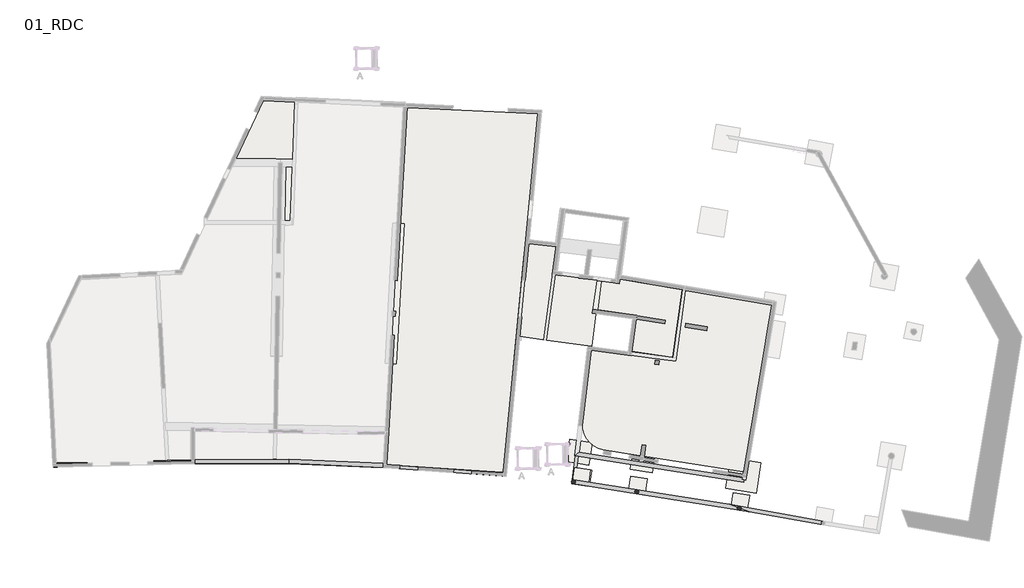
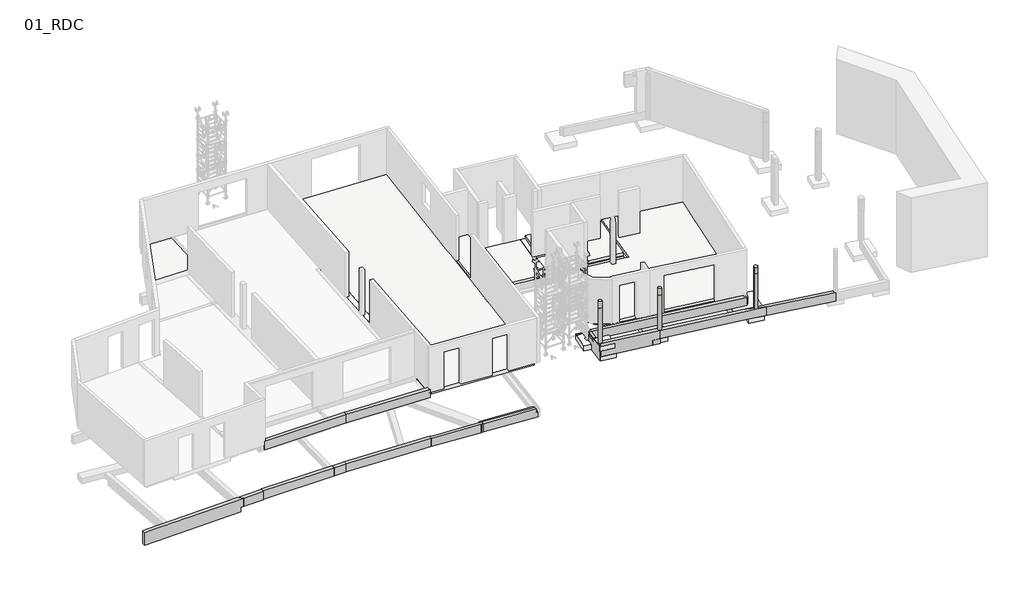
# One storey, part 2 of 5: 16 slabs, 14 beams, 3 columns.
"""IFC4 building model written with IfcOpenShell, lengths in millimetres."""

from ifc_helpers import new_model, si_unit, point, frame, frame_2d, origin, place, context, project, spatial, polyline, circle_curve, trimmed, segment, composite_curve, outline, extrude, faceted_brep, element, save
from ifc_brep_helpers import plane_surface, cylinder_surface, revolved_surface, advanced_brep

model = new_model("IFC4")

# Units and contexts
model_context = context("Model", 3, world=origin())
ifc_project = project(units=[si_unit("LENGTHUNIT", "METRE", prefix="MILLI")], contexts=[model_context])

# Site, building, storey
site = spatial("IfcSite", under=ifc_project)
building = spatial("IfcBuilding", under=site)
storey = spatial("IfcBuildingStorey", under=building, Name="01_RDC", Elevation=21740.0)

# Beams
placement = place(None, origin())
element("IfcBeam", 1, ObjectType="Poutre_Rect_2013_JBE : 15x80ht", at=placement, inside=storey, context=model_context, shape_type="AdvancedBrep", body=[
    advanced_brep(
    [(7927.6438367, -1727.5387484, 20940.0), (8076.540404, -1745.6994821, 20940.0), (8076.540404, -1745.6994821, 21490.0), (7927.6438367, -1727.5387484, 21490.0), (8242.115707, -388.1775546, 21739.7), (8242.115707, -388.1775546, 21740.0), (8172.8419805, -956.1402943, 21740.0), (8172.8419805, -956.1402943, 21739.7), (8051.7822994, -709.7499716, 20940.0), (8200.0685102, -732.9149074, 20940.0), (7927.6438367, -1727.5387484, 21740.0), (8093.8294962, -365.0126187, 21740.0), (8093.8294962, -365.0126187, 21739.7), (8020.843988, -963.4075843, 21739.7), (8020.843988, -963.4075843, 21579.7), (8093.8294962, -365.0126187, 21579.7), (8093.8294962, -365.0126187, 21240.0), (8051.7822994, -709.7499716, 21240.0), (8051.1204452, -937.1252319, 21740.0), (8242.115707, -388.1775546, 21579.7), (8242.115707, -388.1775546, 21240.0), (8044.2011689, -981.4177466, 21579.7), (8051.1204452, -937.1252319, 21579.7), (8172.8419805, -956.1402943, 21579.7), (8051.1204452, -937.1252319, 21739.7), (8044.2011689, -981.4177466, 21739.7), (8200.0685102, -732.9149074, 21240.0), (8051.1204452, -937.1252319, 21490.0), (8172.8419805, -956.1402943, 21490.0)],
    [
        (0, 1),
        (1, 2),
        (2, 3),
        (3, 0),
        (4, 5),
        (5, 6),
        (6, 7),
        (7, 4),
        (0, 8),
        (8, 9),
        (9, 1),
        (10, 11),
        (11, 12),
        (12, 13),
        (13, 14),
        (14, 15),
        (15, 16),
        (16, 17),
        (17, 8),
        (3, 10),
        (10, 18),
        (18, 6),
        (5, 11),
        (19, 20),
        (20, 16),
        (15, 19),
        (14, 21, circle_curve(frame((9366.7605871, 757.9458987, 21579.7), z_axis=(0.0, 0.0, 1.0), x_axis=(1.0, 0.0, 0.0)), 2185.0742104)),
        (21, 22),
        (22, 23),
        (23, 19),
        (12, 4),
        (7, 24),
        (24, 25),
        (25, 13, circle_curve(frame((9366.7605871, 757.9458987, 21739.7), z_axis=(0.0, 0.0, -1.0), x_axis=(1.0, 0.0, 0.0)), 2185.0742104)),
        (25, 21),
        (26, 17),
        (20, 26),
        (26, 9),
        (27, 3),
        (2, 28),
        (28, 27),
        (18, 24),
        (27, 22),
        (23, 28),
    ],
    [
        plane_surface(frame((8076.540404, -1745.6994821, 21740.0), z_axis=(-0.12107155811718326, -0.992643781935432, 0.0), x_axis=(0.0, 0.0, 1.0))),
        plane_surface(frame((8254.5348768, -286.3550298, 21740.0), z_axis=(0.992643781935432, -0.12107155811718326, 0.0), x_axis=(-0.12107155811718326, -0.992643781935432, 0.0))),
        plane_surface(frame((8254.5348768, -286.3550298, 20940.0), z_axis=(0.0, 0.0, -1.0), x_axis=(-0.12107155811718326, -0.992643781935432, 0.0))),
        plane_surface(frame((8105.6383095, -268.194296, 20940.0), z_axis=(-0.992643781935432, 0.12107155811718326, 0.0), x_axis=(-0.12107155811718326, -0.992643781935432, 0.0))),
        plane_surface(frame((8105.6383095, -268.194296, 21740.0), z_axis=(0.0, 0.0, 1.0), x_axis=(-0.12107155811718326, -0.992643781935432, 0.0))),
        plane_surface(frame((8164.6520171, -376.0763525, 21240.0), z_axis=(0.1543457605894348, 0.9880168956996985, 0.0), x_axis=(0.9880168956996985, -0.1543457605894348, 0.0))),
        plane_surface(frame((5278.9911655, 3851.1043884, 21579.7), z_axis=(0.0, 0.0, 1.0000000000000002), x_axis=(-0.9909471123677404, 0.13425282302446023, 0.0))),
        plane_surface(frame((5278.9911655, 3851.1043884, 21739.7), z_axis=(0.0, 0.0, -1.0000000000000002), x_axis=(0.9909471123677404, -0.13425282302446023, 0.0))),
        revolved_surface(polyline([(11551.8347975, 757.9458987, 21579.7), (11551.8347975, 757.9458987, 21739.7)]), (9366.7605871, 757.9458987, 21739.7), (0.0, 0.0, -1.0)),
        plane_surface(frame((7838.7164468, 436.8759778, 21240.0), z_axis=(0.0, 0.0, -1.0), x_axis=(-0.9880168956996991, 0.15434576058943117, 0.0))),
        plane_surface(frame((7668.9361102, -649.9426075, 21240.0), z_axis=(0.15434576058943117, 0.9880168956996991, 0.0), x_axis=(0.0, 0.0, -1.0))),
        plane_surface(frame((8051.1204452, -937.1252319, 21490.0), z_axis=(0.0, 0.0, 1.0), x_axis=(0.988016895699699, -0.15434576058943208, 0.0))),
        plane_surface(frame((8841.5339617, -1060.6018403, 21740.0), z_axis=(-0.15434576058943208, -0.988016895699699, 0.0), x_axis=(0.0, 0.0, -1.0))),
        plane_surface(frame((8051.1204452, -937.1252319, 21740.0), z_axis=(0.988016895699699, -0.15434576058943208, 0.0), x_axis=(0.0, 0.0, -1.0))),
    ],
    [
        (0, [[1, 2, 3, 4]]),
        (1, [[5, 6, 7, 8]]),
        (2, [[-1, 9, 10, 11]]),
        (3, [[12, 13, 14, 15, 16, 17, 18, 19, -9, -4, 20]]),
        (4, [[-12, 21, 22, -6, 23]]),
        (5, [[24, 25, -17, 26]]),
        (6, [[-16, 27, 28, 29, 30, -26]]),
        (7, [[-14, 31, -8, 32, 33, 34]]),
        (8, [[-15, -34, 35, -27]]),
        (5, [[-23, -5, -31, -13]]),
        (9, [[36, -18, -25, 37]]),
        (10, [[-36, 38, -10, -19]]),
        (11, [[39, -3, 40, 41]]),
        (12, [[42, -32, -7, -22]]),
        (13, [[-39, 43, -28, -35, -33, -42, -21, -20]]),
        (1, [[-24, -30, 44, -40, -2, -11, -38, -37]]),
        (12, [[-41, -44, -29, -43]]),
    ],
),
])
element("IfcBeam", 2, ObjectType="Poutre_Rect_2013_JBE : 18x50ht", at=placement, inside=storey, context=model_context, shape_type="SweptSolid", body=[
    extrude(outline(polyline([(20150.9156972, -3730.1219038), (16578.7470612, -3094.1778304), (15586.8619373, -2734.7648614), (20181.0654483, -3552.6591975), (20150.9156972, -3730.1219038)])), frame((0.0, 0.0, 21440.0), z_axis=(0.0, 0.0, 1.0), x_axis=(1.0, 0.0, 0.0)), (0.0, 0.0, 1.0), 500.0),
])
element("IfcBeam", 3, ObjectType="Poutre_Rect_2013_JBE : 20x50ht", at=placement, inside=storey, context=model_context, shape_type="Brep", body=[
    faceted_brep([(-5844.0715312, -744.9342702, 21940.0), (-5844.0715312, -744.9342702, 21440.0), (-5844.8812324, -544.9359093, 21440.0), (-5844.8812324, -544.9359093, 21940.0), (-10439.033874, -763.5371561, 21940.0), (-10439.8435753, -563.5387951, 21940.0), (-10439.8435753, -563.5387951, 21440.0), (-10439.033874, -763.5371561, 21440.0), (-8232.5848744, -754.6042605, 21440.0), (-5848.4507051, -744.9519995, 21440.0), (-8233.3945757, -554.6058995, 21440.0), (-7946.7003599, -553.4452067, 21440.0), (-6625.1436627, -553.4452067, 21440.0), (-6625.0448231, -548.0944323, 21440.0), (-6625.0448231, -548.0944323, 21470.0), (-7946.7003599, -553.4452067, 21470.0), (-6625.1436627, -553.4452067, 21470.0)], [[[0, 1, 2, 3]], [[4, 5, 6, 7]], [[1, 0, 4, 7, 8, 9]], [[2, 1, 9, 8, 7, 6, 10, 11, 12, 13]], [[3, 2, 13, 14, 15, 11, 10, 6, 5]], [[0, 3, 5, 4]], [[14, 16, 15]], [[16, 14, 13, 12]], [[15, 16, 12, 11]]]),
])
element("IfcBeam", 4, ObjectType="Poutre_Rect_2013_JBE : 20x50ht", at=placement, inside=storey, context=model_context, shape_type="Brep", body=[
    faceted_brep([(-1191.9423901, -946.7799787, 21940.0), (-1191.9423901, -946.7799787, 21440.0), (-1183.2870434, -746.967354, 21440.0), (-1183.2870434, -746.967354, 21740.0), (-1191.8938423, -945.65923, 21740.0), (-1191.8938423, -945.65923, 21940.0), (-5848.6797506, -745.0626119, 21940.0), (-5840.0244039, -545.2499873, 21940.0), (-5840.0244039, -545.2499873, 21440.0), (-5848.6797506, -745.0626119, 21440.0), (-1235.6438293, -744.6993986, 21940.0), (-1235.6438293, -744.6993986, 21740.0), (-1246.6490524, -941.7118581, 21940.0), (-1246.6490524, -941.7118581, 21740.0), (-1237.7241115, -781.9400352, 21740.0)], [[[0, 1, 2, 3, 4, 5]], [[6, 7, 8, 9]], [[1, 0, 6, 9]], [[2, 1, 9, 8]], [[8, 7, 10, 11, 3, 2]], [[7, 6, 0, 5, 12, 10]], [[4, 13, 12, 5]], [[13, 4, 3, 11, 14]], [[13, 14, 11, 10, 12]]]),
])
element("IfcBeam", 5, ObjectType="Poutre_Rect_2013_JBE : 20x50ht", at=placement, inside=storey, context=model_context, shape_type="Brep", body=[
    faceted_brep([(-10526.7371149, -762.9896263, 18990.0), (-10526.7371149, -762.9896263, 18490.0), (-10527.0729804, -747.9925495, 18490.0), (-10527.6418252, -722.5924659, 18490.0), (-10531.2150706, -563.0397628, 18490.0), (-10531.2150706, -563.0397628, 18990.0), (-10527.6418252, -722.5924659, 18990.0), (-10527.0729804, -747.9925495, 18990.0), (-11654.7702415, -788.2523708, 18990.0), (-11654.654987, -788.2497897, 18490.0), (-11760.1335155, -690.5869482, 18490.0), (-11765.4771293, -590.681546, 18490.0), (-11765.4771293, -590.681546, 18990.0), (-11760.1335155, -690.5869482, 18990.0)], [[[0, 1, 2, 3, 4, 5, 6, 7]], [[1, 0, 8, 9]], [[4, 3, 2, 1, 9, 10, 11]], [[5, 4, 11, 12]], [[0, 7, 6, 5, 12, 13, 8]], [[12, 11, 10, 13]], [[9, 8, 13, 10]]]),
])
element("IfcBeam", 6, ObjectType="Poutre_Rect_2013_JBE : 20x50ht", at=placement, inside=storey, context=model_context, shape_type="Brep", body=[
    faceted_brep([(-6522.6418252, -747.9925495, 18990.0), (-6522.6418252, -747.9925495, 18490.0), (-6522.6418252, -744.9432347, 18490.0), (-6522.6418252, -547.9925495, 18490.0), (-6522.6418252, -547.9925495, 18790.0), (-6522.6418252, -547.9925495, 18990.0), (-6522.6418252, -554.2668084, 18990.0), (-6522.6418252, -744.9432347, 18990.0), (-10527.6418252, -547.9925495, 18990.0), (-10527.6418252, -547.9925495, 18490.0), (-10527.6418252, -722.5924659, 18490.0), (-10527.6418252, -722.5924659, 18990.0), (-10527.0729804, -747.9925495, 18990.0), (-10527.0729804, -747.9925495, 18490.0), (-6622.0101401, -547.9925495, 18490.0), (-6526.8167558, -547.9925495, 18490.0)], [[[0, 1, 2, 3, 4, 5, 6, 7]], [[8, 9, 10, 11]], [[1, 0, 12, 13]], [[3, 2, 1, 13, 10, 9, 14, 15]], [[5, 4, 3, 15, 14, 9, 8]], [[0, 7, 6, 5, 8, 11, 12]], [[11, 10, 13, 12]]]),
])
element("IfcBeam", 7, ObjectType="Poutre_Rect_2013_JBE : 20x50ht", at=placement, inside=storey, context=model_context, shape_type="Brep", body=[
    faceted_brep([(-1147.26684, -948.5946696, 18990.0), (-1147.26684, -948.5946696, 18490.0), (-1138.6114932, -748.7820449, 18490.0), (-1138.6114932, -748.7820449, 18990.0), (-5850.8158679, -744.849547, 18990.0), (-5842.1605211, -545.0369223, 18990.0), (-5842.1605211, -545.0369223, 18490.0), (-5850.8158679, -744.849547, 18490.0), (-1245.1642954, -944.3540145, 18990.0), (-5848.4507051, -744.9519995, 18990.0), (-3142.3794185, -862.1717463, 18490.0), (-2143.3162952, -905.4484799, 18490.0), (-2807.1717646, -676.5044913, 18490.0), (-2492.2595701, -690.1456426, 18490.0), (-1240.5678842, -744.3655676, 18990.0)], [[[0, 1, 2, 3]], [[4, 5, 6, 7]], [[1, 0, 8, 9, 4, 7, 10, 11]], [[2, 1, 11, 10, 7, 6, 12, 13]], [[3, 2, 13, 12, 6, 5, 14]], [[0, 3, 14, 5, 4, 9, 8]]]),
])
element("IfcBeam", 8, ObjectType="Poutre_Rect_2013_JBE : 20x50ht", at=placement, inside=storey, context=model_context, shape_type="Brep", body=[
    faceted_brep([(-1150.1296314, -948.4295083, 18990.0), (-1135.7487017, -748.9472062, 18990.0), (-1135.7487017, -748.9472062, 18490.0), (-1150.1296314, -948.4295083, 18490.0), (1557.2545934, -1143.6082374, 18490.0), (1626.6253639, -1148.6092634, 18490.0), (1683.5157755, -1152.7105646, 18490.0), (1683.5157755, -1152.7105646, 18990.0), (1626.6253639, -1148.6092634, 18990.0), (1557.2545934, -1143.6082374, 18990.0), (1449.2103947, -935.300154, 18490.0), (1697.8967052, -953.2282625, 18490.0), (-1055.4812273, -754.7337892, 18990.0), (-1055.4812273, -754.7337892, 18790.0), (1449.2103947, -935.300154, 18790.0), (1697.8967052, -953.2282625, 18790.0), (1694.994376, -993.4873638, 18990.0), (-1057.7318571, -794.9238867, 18990.0), (1694.994376, -993.4873638, 18790.0), (-1057.7318571, -794.9238867, 18790.0)], [[[0, 1, 2, 3]], [[0, 3, 4, 5, 6, 7, 8, 9]], [[3, 2, 10, 11, 6, 5, 4]], [[2, 1, 12, 13, 14, 15, 11, 10]], [[1, 0, 9, 8, 7, 16, 17, 12]], [[7, 6, 11, 15, 18, 16]], [[13, 19, 18, 15, 14]], [[19, 17, 16, 18]], [[17, 19, 13, 12]]]),
])
element("IfcBeam", 9, ObjectType="Poutre_Rect_2013_JBE : 20x50ht", at=placement, inside=storey, context=model_context, shape_type="Brep", body=[
    faceted_brep([(-6526.8167558, -544.9432347, 18790.0), (-6526.8167558, -544.9432347, 18490.0), (-6526.8167558, -547.9925495, 18490.0), (-6526.8167558, -547.9925495, 18790.0), (-5841.8167558, -744.9432347, 18990.0), (-5841.8167558, -744.9432347, 18490.0), (-5841.8167558, -544.9432347, 18490.0), (-5841.8167558, -544.9432347, 18790.0), (-5841.8167558, -552.7778113, 18790.0), (-5841.8167558, -552.7778113, 18990.0), (-6421.9196946, -544.9432347, 18490.0), (-6421.9196946, -544.9432347, 18790.0), (-6522.6418252, -744.9432347, 18490.0), (-6522.6418252, -547.9925495, 18490.0), (-6522.6418252, -744.9432347, 18990.0), (-6522.6418252, -554.2668084, 18990.0), (-6522.6418252, -547.9925495, 18790.0), (-6522.6418252, -554.2668084, 18790.0)], [[[0, 1, 2, 3]], [[4, 5, 6, 7, 8, 9]], [[6, 10, 1, 0, 11, 7]], [[6, 5, 12, 13, 2, 1, 10]], [[5, 4, 14, 12]], [[4, 9, 15, 14]], [[8, 7, 11, 0, 3, 16, 17]], [[9, 8, 17, 15]], [[16, 13, 12, 14, 15, 17]], [[13, 16, 3, 2]]]),
])
element("IfcBeam", 10, ObjectType="Poutre_Rect_2013_JBE : 20x50ht", at=placement, inside=storey, context=model_context, shape_type="Brep", body=[
    faceted_brep([(16578.7470612, -3094.1778304, 21440.0), (16578.7470612, -3094.1778304, 21940.0), (11078.3286517, -2223.9606489, 21940.0), (11078.3286517, -2223.9606489, 21440.0), (15672.0919078, -2950.7365804, 21440.0), (16462.263955, -3075.7491232, 21440.0), (15586.8619373, -2734.7648614, 21440.0), (11109.5817874, -2026.4176371, 21440.0), (15586.8619373, -2734.7648614, 21940.0), (11109.5817874, -2026.4176371, 21940.0)], [[[0, 1, 2, 3, 4, 5]], [[6, 0, 5, 4, 3, 7]], [[8, 6, 7, 9]], [[1, 8, 9, 2]], [[2, 9, 7, 3]], [[1, 0, 6, 8]]]),
])
element("IfcBeam", 11, ObjectType="Poutre_Rect_2013_JBE : 20x50ht", at=placement, inside=storey, context=model_context, shape_type="Brep", body=[
    faceted_brep([(8293.8700266, -193.836809, 21740.0), (11223.162731, -651.4442774, 21740.0), (11420.7661102, -682.3134296, 21740.0), (16232.0812623, -1433.9261801, 21740.0), (16232.0812623, -1433.9261801, 21240.0), (11420.7661102, -682.3134296, 21240.0), (11223.162731, -651.4442774, 21240.0), (8293.8700266, -193.836809, 21240.0), (16297.4209442, -1646.5590853, 21240.0), (8242.115707, -388.1775546, 21240.0), (8093.8294962, -365.0126187, 21240.0), (8071.9270956, -361.5910753, 21240.0), (16215.566276, -1531.2267549, 21240.0), (16314.1562288, -1547.9605895, 21240.0), (16297.4209442, -1646.5590853, 21740.0), (8242.115707, -388.1775546, 21740.0), (8093.8294962, -365.0126187, 21740.0), (8071.9270956, -361.5910753, 21740.0), (8071.9270956, -361.5910753, 21739.7), (8093.8294962, -365.0126187, 21739.7), (8242.115707, -388.1775546, 21739.7), (8258.4352381, -390.7269547, 21739.7), (8258.4352381, -390.7269547, 21579.7), (8242.115707, -388.1775546, 21579.7), (8093.8294962, -365.0126187, 21579.7), (8071.9270956, -361.5910753, 21579.7), (16314.1562288, -1547.9605895, 21740.0), (16215.566276, -1531.2267549, 21740.0), (8281.201859, -203.4119693, 21579.7), (8281.201859, -203.4119693, 21739.7)], [[[0, 1, 2, 3, 4, 5, 6, 7]], [[8, 9, 10, 11, 7, 6, 5, 4, 12, 13]], [[11, 10, 9, 8, 14, 15, 16, 17, 18, 19, 20, 21, 22, 23, 24, 25]], [[17, 16, 15, 14, 26, 27, 3, 2, 1, 0]], [[14, 8, 13, 26]], [[12, 27, 26, 13]], [[27, 12, 4, 3]], [[22, 28, 25, 24, 23]], [[29, 21, 20, 19, 18]], [[28, 22, 21, 29]], [[0, 7, 11, 25, 28, 29, 18, 17]]]),
])
element("IfcBeam", 12, ObjectType="Poutre_Rect_2013_JBE : 20x77ht", at=placement, inside=storey, context=model_context, shape_type="Brep", body=[
    faceted_brep([(-17321.9480052, -921.1993262, 18990.0), (-17326.6424746, -721.2544289, 18990.0), (-17326.6424746, -721.2544289, 18220.0), (-17321.9480052, -921.1993262, 18220.0), (-11811.9888178, -791.8320082, 18220.0), (-11811.9888178, -791.8320082, 18490.0), (-11654.7727411, -788.1407609, 18490.0), (-11654.7727411, -788.1407609, 18790.0), (-11654.7727411, -788.1407609, 18990.0), (-15639.2449959, -881.6914518, 18990.0), (-17118.9691928, -916.433624, 18990.0), (-17319.0009467, -921.1301327, 18990.0), (-12335.7240826, -604.0735742, 18220.0), (-12332.0660644, -801.4697434, 18220.0), (-17129.5577792, -716.6271136, 18990.0), (-15643.9394653, -681.7465545, 18990.0), (-11865.4942898, -593.0331355, 18990.0), (-11865.4942898, -593.0331355, 18790.0), (-11865.4942898, -593.0331355, 18490.0), (-12335.7240826, -604.0735742, 18490.0), (-11760.1335155, -690.5869482, 18990.0), (-11760.1335155, -690.5869482, 18490.0), (-12332.0660644, -801.4697434, 18490.0)], [[[0, 1, 2, 3]], [[0, 3, 4, 5, 6, 7, 8, 9, 10, 11]], [[3, 2, 12, 13, 4]], [[2, 1, 14, 15, 16, 17, 18, 19, 12]], [[1, 0, 11, 10, 9, 8, 20, 16, 15, 14]], [[16, 20, 8, 7, 6, 21, 18, 17]], [[5, 22, 19, 18, 21, 6]], [[19, 22, 13, 12]], [[22, 5, 4, 13]]]),
])
element("IfcBeam", 13, ObjectType="Poutre_Rect_2013_JBE : 20x80ht", at=placement, inside=storey, context=model_context, shape_type="Brep", body=[
    faceted_brep([(11078.5206435, -2217.2118079, 21940.0), (7998.7715359, -1736.1003811, 21940.0), (7998.7715359, -1736.1003811, 21740.0), (8718.4461844, -1848.5263239, 21740.0), (8718.4461844, -1848.5263239, 21490.0), (7998.7715359, -1736.1003811, 21490.0), (7998.7715359, -1736.1003811, 21140.0), (8789.1850525, -1859.5769896, 21140.0), (11078.5206435, -2217.2118079, 21140.0), (8029.640688, -1538.497002, 21140.0), (11109.3897956, -2019.6084288, 21140.0), (8029.640688, -1538.497002, 21490.0), (8749.3153365, -1650.9229448, 21490.0), (8749.3153365, -1650.9229448, 21740.0), (8029.640688, -1538.497002, 21740.0), (8029.640688, -1538.497002, 21940.0), (11109.3897956, -2019.6084288, 21940.0)], [[[0, 1, 2, 3, 4, 5, 6, 7, 8]], [[8, 7, 6, 9, 10]], [[10, 9, 11, 12, 13, 14, 15, 16]], [[1, 0, 16, 15]], [[9, 6, 5, 11]], [[0, 8, 10, 16]], [[13, 3, 2, 14]], [[4, 12, 11, 5]], [[3, 13, 12, 4]], [[1, 15, 14, 2]]]),
])
element("IfcBeam", 14, ObjectType="Poutre_Rect_2013_JBE : 50x50ht", at=placement, inside=storey, context=model_context, shape_type="Brep", body=[
    faceted_brep([(4686.6768323, -868.1551696, 18490.0), (1872.4077845, -665.2709794, 18490.0), (1719.4508474, -654.2441217, 18490.0), (1719.4508474, -654.2441217, 18790.0), (1872.4077845, -665.2709794, 18790.0), (4686.6768323, -868.1551696, 18790.0), (4638.3484382, -1365.9687185, 18490.0), (1683.4985231, -1152.949877, 18490.0), (1683.5157755, -1152.7105646, 18490.0), (1697.8967052, -953.2282625, 18490.0), (4638.3484382, -1365.9687185, 18790.0), (4548.5537648, -1359.4953077, 18790.0), (4548.5537648, -1359.4953077, 18990.0), (1683.4985231, -1152.949877, 18990.0), (1694.994376, -993.4873638, 18990.0), (1683.5157755, -1152.7105646, 18990.0), (4563.9952454, -1200.4381247, 18990.0), (1694.994376, -993.4873638, 18790.0), (1697.8967052, -953.2282625, 18790.0), (4563.9952454, -1200.4381247, 18790.0)], [[[0, 1, 2, 3, 4, 5]], [[2, 1, 0, 6, 7, 8, 9]], [[7, 6, 10, 11, 12, 13]], [[14, 15, 13, 12, 16]], [[6, 0, 5, 10]], [[2, 9, 8, 7, 13, 15, 14, 17, 18, 3]], [[3, 18, 17, 19, 11, 10, 5, 4]], [[17, 14, 16, 19]], [[11, 19, 16, 12]]]),
])

# Columns
element("IfcColumn", 15, ObjectType="Pot_Circ_2013_JBE : diametre 20", at=placement, inside=storey, context=model_context, shape_type="SweptSolid", body=[
    extrude(outline(composite_curve([segment(trimmed(circle_curve(frame_2d((8014.206112, -1637.2986915)), 100.0), [point((7914.206112, -1637.2986915))], [point((8114.206112, -1637.2986915))], False, "CARTESIAN"), True, "CONTINUOUS"), segment(trimmed(circle_curve(frame_2d((8014.206112, -1637.2986915)), 100.0), [point((8114.206112, -1637.2986915))], [point((7914.206112, -1637.2986915))], False, "CARTESIAN"), True, "CONTINUOUS")], self_intersect=False)), frame((0.0, 0.0, 21940.0), z_axis=(0.0, 0.0, 1.0), x_axis=(1.0, 0.0, 0.0)), (0.0, 0.0, 1.0), 2100.0),
    extrude(outline(composite_curve([segment(trimmed(circle_curve(frame_2d((8014.206112, -1637.2986915)), 100.0), [point((7914.206112, -1637.2986915))], [point((8114.206112, -1637.2986915))], False, "CARTESIAN"), True, "CONTINUOUS"), segment(trimmed(circle_curve(frame_2d((8014.206112, -1637.2986915)), 100.0), [point((8114.206112, -1637.2986915))], [point((7914.206112, -1637.2986915))], False, "CARTESIAN"), True, "CONTINUOUS")], self_intersect=False)), frame((0.0, 0.0, 24040.0), z_axis=(0.0, 0.0, 1.0), x_axis=(1.0, 0.0, 0.0)), (0.0, 0.0, 1.0), 400.0),
])
element("IfcColumn", 16, ObjectType="Pot_Circ_2013_JBE : 200", at=placement, inside=storey, context=model_context, shape_type="SweptSolid", body=[
    extrude(outline(composite_curve([segment(trimmed(circle_curve(frame_2d((11093.9552195, -2125.189143)), 100.0), [point((10993.9552195, -2125.189143))], [point((11193.9552195, -2125.189143))], False, "CARTESIAN"), True, "CONTINUOUS"), segment(trimmed(circle_curve(frame_2d((11093.9552195, -2125.189143)), 100.0), [point((11193.9552195, -2125.189143))], [point((10993.9552195, -2125.189143))], False, "CARTESIAN"), True, "CONTINUOUS")], self_intersect=False)), frame((0.0, 0.0, 24040.0), z_axis=(0.0, 0.0, 1.0), x_axis=(1.0, 0.0, 0.0)), (0.0, 0.0, 1.0), 400.0),
    extrude(outline(composite_curve([segment(trimmed(circle_curve(frame_2d((11093.9552195, -2125.189143)), 100.0), [point((10993.9552195, -2125.189143))], [point((11193.9552195, -2125.189143))], False, "CARTESIAN"), True, "CONTINUOUS"), segment(trimmed(circle_curve(frame_2d((11093.9552195, -2125.189143)), 100.0), [point((11193.9552195, -2125.189143))], [point((10993.9552195, -2125.189143))], False, "CARTESIAN"), True, "CONTINUOUS")], self_intersect=False)), frame((0.0, 0.0, 21940.0), z_axis=(0.0, 0.0, 1.0), x_axis=(1.0, 0.0, 0.0)), (0.0, 0.0, 1.0), 2100.0),
])
element("IfcColumn", 17, ObjectType="Pot_Circ_2013_JBE : 200", at=placement, inside=storey, context=model_context, shape_type="SweptSolid", body=[
    extrude(outline(composite_curve([segment(trimmed(circle_curve(frame_2d((16082.8044992, -2914.4713459)), 100.0), [point((15982.8044992, -2914.4713459))], [point((16182.8044992, -2914.4713459))], False, "CARTESIAN"), True, "CONTINUOUS"), segment(trimmed(circle_curve(frame_2d((16082.8044992, -2914.4713459)), 100.0), [point((16182.8044992, -2914.4713459))], [point((15982.8044992, -2914.4713459))], False, "CARTESIAN"), True, "CONTINUOUS")], self_intersect=False)), frame((0.0, 0.0, 21940.0), z_axis=(0.0, 0.0, 1.0), x_axis=(1.0, 0.0, 0.0)), (0.0, 0.0, 1.0), 2100.0),
    extrude(outline(composite_curve([segment(trimmed(circle_curve(frame_2d((16082.8044992, -2914.4713459)), 100.0), [point((15982.8044992, -2914.4713459))], [point((16182.8044992, -2914.4713459))], False, "CARTESIAN"), True, "CONTINUOUS"), segment(trimmed(circle_curve(frame_2d((16082.8044992, -2914.4713459)), 100.0), [point((16182.8044992, -2914.4713459))], [point((15982.8044992, -2914.4713459))], False, "CARTESIAN"), True, "CONTINUOUS")], self_intersect=False)), frame((0.0, 0.0, 24040.0), z_axis=(0.0, 0.0, 1.0), x_axis=(1.0, 0.0, 0.0)), (0.0, 0.0, 1.0), 400.0),
])

# Slabs
element("IfcSlab", 18, ObjectType="Dalle Béton - 23 cm", at=placement, inside=storey, context=model_context, shape_type="SweptSolid", body=[
    extrude(outline(polyline([(-5699.7188548, 13676.2261233), (-5796.0111481, 11087.6283744), (-6012.5454719, 11087.6283744), (-5961.8423813, 13681.0662906), (-5699.7188548, 13676.2261233)])), frame((0.0, 0.0, 21510.0), z_axis=(0.0, 0.0, 1.0), x_axis=(1.0, 0.0, 0.0)), (0.0, 0.0, 1.0), 230.0),
])
element("IfcSlab", 19, ObjectType="Dalle Béton - 23 cm", at=placement, inside=storey, context=model_context, shape_type="Brep", body=[
    faceted_brep([(-5581.7926663, 16846.4015922, 21510.0), (-5684.315524, 14090.3093904, 21510.0), (-5684.8413105, 14076.1748245, 21510.0), (-6452.7049089, 14090.3093904, 21510.0), (-8381.5742515, 14125.8153462, 21510.0), (-7062.9671318, 16918.1743446, 21510.0), (-5581.7926663, 16846.4015922, 21740.0), (-7062.9671318, 16918.1743446, 21740.0), (-8381.5742515, 14125.8153462, 21740.0), (-6452.7049089, 14090.3093904, 21740.0), (-5684.8413105, 14076.1748245, 21740.0)], [[[0, 1, 2, 3, 4, 5]], [[6, 7, 8, 9, 10]], [[2, 1, 0, 6, 10]], [[4, 3, 2, 10, 9, 8]], [[5, 4, 8, 7]], [[0, 5, 7, 6]]]),
])
element("IfcSlab", 20, ObjectType="Dalle Béton - 23 cm", at=placement, inside=storey, context=model_context, shape_type="Brep", body=[
    faceted_brep([(4567.8851225, -1160.3698882, 21510.0), (-1055.6525857, -795.0658002, 21510.0), (-781.7804356, 4096.1254399, 21510.0), (-582.093611, 4084.9707708, 21510.0), (-198.9271583, 10944.2771111, 21510.0), (-398.6171318, 10955.431956, 21510.0), (-84.4505247, 16580.0188091, 21510.0), (6260.2982009, 16272.5735419, 21510.0), (5643.7523434, 9921.7545877, 21510.0), (5643.5584676, 9919.7575422, 21510.0), (5554.8554062, 9006.0589482, 21510.0), (4567.8851225, -1160.3698882, 21740.0), (5554.8554062, 9006.0589482, 21740.0), (5643.5584676, 9919.7575422, 21740.0), (6260.2982009, 16272.5735419, 21740.0), (-84.4505247, 16580.0188091, 21740.0), (-398.6171318, 10955.431956, 21740.0), (-198.9271583, 10944.2771111, 21740.0), (-582.093611, 4084.9707708, 21740.0), (-781.7804356, 4096.1254399, 21740.0), (-1055.6525857, -795.0658002, 21740.0), (-582.093611, 4084.9707708, 21540.0), (-198.9271583, 10944.2771111, 21540.0), (-398.6171318, 10955.431956, 21540.0)], [[[0, 1, 2, 3, 4, 5, 6, 7, 8, 9, 10]], [[11, 12, 13, 14, 15, 16, 17, 18, 19, 20]], [[1, 0, 11, 20]], [[2, 1, 20, 19]], [[3, 2, 19, 18, 21]], [[4, 3, 21, 18, 17, 22]], [[5, 4, 22, 17, 16, 23]], [[6, 5, 23, 16, 15]], [[7, 6, 15, 14]], [[0, 10, 9, 8, 7, 14, 13, 12, 11]]]),
])
element("IfcSlab", 21, ObjectType="Dalle Béton - 16cm", at=placement, inside=storey, context=model_context, shape_type="Brep", body=[
    faceted_brep([(6534.8111995, 5284.96327, 21579.3), (5393.2856525, 5440.4656432, 21579.3), (5737.5712097, 8988.1038187, 21579.3), (5826.4364882, 9903.8025692, 21579.3), (5830.1403768, 9941.9687257, 21579.3), (7155.6317386, 9811.5437408, 21579.3), (6534.8111995, 5284.96327, 21739.3), (7155.6317386, 9811.5437408, 21739.3), (5830.1403768, 9941.9687257, 21739.3), (5826.4364882, 9903.8025692, 21739.3), (5737.5712097, 8988.1038187, 21739.3), (5393.2856525, 5440.4656432, 21739.3)], [[[0, 1, 2, 3, 4, 5]], [[6, 7, 8, 9, 10, 11]], [[1, 0, 6, 11]], [[4, 3, 2, 1, 11, 10, 9, 8]], [[5, 4, 8, 7]], [[0, 5, 7, 6]]]),
])
element("IfcSlab", 22, ObjectType="Dalle Béton - 16cm", at=placement, inside=storey, context=model_context, shape_type="Brep", body=[
    faceted_brep([(9144.1263186, 8165.0324587, 21580.0), (8927.5377269, 6575.0798072, 21580.0), (8927.8469567, 6575.0354332, 21580.0), (9105.7161917, 6549.5114826, 21580.0), (8911.9398835, 4960.7746202, 21580.0), (6714.0902186, 5261.8378363, 21580.0), (7149.0008783, 8436.8187907, 21580.0), (9144.1263186, 8165.0324587, 21740.0), (7149.0008783, 8436.8187907, 21740.0), (6714.0902186, 5261.8378363, 21740.0), (8911.9398835, 4960.7746202, 21740.0), (9105.7161917, 6549.5114826, 21740.0), (8927.5377269, 6575.0798072, 21740.0), (8939.512278, 6662.983649, 21740.0)], [[[0, 1, 2, 3, 4, 5, 6]], [[7, 8, 9, 10, 11, 12, 13]], [[6, 5, 9, 8]], [[0, 6, 8, 7]], [[1, 0, 7, 13, 12]], [[3, 2, 1, 12, 11]], [[4, 3, 11, 10]], [[5, 4, 10, 9]]]),
])
element("IfcSlab", 23, ObjectType="Dalle Béton - 16cm", at=placement, inside=storey, context=model_context, shape_type="AdvancedBrep", body=[
    advanced_brep(
    [(8451.54307, 1210.5936454, 21580.0), (8887.2410246, 4782.8022811, 21580.0), (12005.7235844, 4357.9796423, 21580.0), (12203.9311908, 4330.9783438, 21580.0), (13007.5041125, 4221.509728, 21580.0), (13274.9436703, 6184.6951152, 21580.0), (13477.9819249, 7675.1901404, 21580.0), (17647.9103237, 6967.4163803, 21580.0), (17381.905687, 5400.209264, 21580.0), (17348.4380179, 5203.0293585, 21580.0), (16270.898819, -1145.4581022, 21580.0), (11465.7272599, -394.5026379, 21580.0), (11268.1257774, -363.6213444, 21580.0), (9469.9993134, -82.6089233, 21580.0), (8451.54307, 1210.5936454, 21740.0), (9469.9993134, -82.6089233, 21740.0), (11268.1257774, -363.6213444, 21740.0), (11465.7272599, -394.5026379, 21740.0), (16270.898819, -1145.4581022, 21740.0), (17348.4380179, 5203.0293585, 21740.0), (17381.905687, 5400.209264, 21740.0), (17647.9103237, 6967.4163803, 21740.0), (13477.9819249, 7675.1901404, 21740.0), (13274.9418134, 6184.6953682, 21740.0), (13007.5041125, 4221.509728, 21740.0), (12203.9311908, 4330.9783438, 21740.0), (12005.7235844, 4357.9796423, 21740.0), (8887.2410246, 4782.8022811, 21740.0)],
    [
        (0, 1),
        (1, 2),
        (2, 3),
        (3, 4),
        (4, 5),
        (5, 6),
        (6, 7),
        (7, 8),
        (8, 9),
        (9, 10),
        (10, 11),
        (11, 12),
        (12, 13),
        (13, 0, circle_curve(frame((9716.1639119, 1158.8987204, 21580.0), z_axis=(0.0, 0.0, -1.0), x_axis=(1.0, 0.0, 0.0)), 1265.6769884)),
        (14, 15, circle_curve(frame((9716.1639119, 1158.8987204, 21740.0), z_axis=(0.0, 0.0, 1.0), x_axis=(1.0, 0.0, 0.0)), 1265.6769884)),
        (15, 16),
        (16, 17),
        (17, 18),
        (18, 19),
        (19, 20),
        (20, 21),
        (21, 22),
        (22, 23),
        (23, 24),
        (24, 25),
        (25, 26),
        (26, 27),
        (27, 14),
        (0, 14),
        (27, 1),
        (24, 4),
        (23, 5),
        (22, 6),
        (21, 7),
        (18, 10),
        (15, 13),
    ],
    [
        plane_surface(frame((8884.979248, 4764.2583847, 21580.0), z_axis=(0.0, 0.0, -1.0), x_axis=(0.1210715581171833, 0.992643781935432, 0.0))),
        plane_surface(frame((8884.979248, 4764.2583847, 21740.0), z_axis=(0.0, 0.0, 1.0), x_axis=(-0.1210715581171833, -0.992643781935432, 0.0))),
        plane_surface(frame((8451.54307, 1210.5936454, 21580.0), z_axis=(-0.992643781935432, 0.1210715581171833, 0.0), x_axis=(0.0, 0.0, 1.0))),
        plane_surface(frame((8887.2410246, 4782.8022811, 21580.0), z_axis=(0.13498063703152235, 0.9908482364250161, 0.0), x_axis=(0.0, 0.0, 1.0))),
        plane_surface(frame((13007.5041125, 4221.509728, 21580.0), z_axis=(-0.9908482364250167, 0.13498063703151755, 0.0), x_axis=(0.0, 0.0, 1.0))),
        plane_surface(frame((13274.9418134, 6184.6953682, 21580.0), z_axis=(-0.9908487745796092, 0.1349766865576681, 0.0), x_axis=(0.0, 0.0, 1.0))),
        plane_surface(frame((13477.9819249, 7675.1901404, 21580.0), z_axis=(0.16733948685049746, 0.9858993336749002, 0.0), x_axis=(0.0, 0.0, 1.0))),
        plane_surface(frame((17647.9103237, 6967.4163803, 21580.0), z_axis=(0.9858995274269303, -0.16733834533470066, 0.0), x_axis=(0.0, 0.0, 1.0))),
        plane_surface(frame((16270.898819, -1145.4581022, 21580.0), z_axis=(-0.1544064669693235, -0.9880074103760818, 0.0), x_axis=(0.0, 0.0, 1.0))),
        cylinder_surface(frame((9716.1639119, 1158.8987204, 21740.0), z_axis=(0.0, 0.0, -1.0), x_axis=(1.0, 0.0, 0.0)), 1265.6769884),
    ],
    [
        (0, [[1, 2, 3, 4, 5, 6, 7, 8, 9, 10, 11, 12, 13, 14]]),
        (1, [[15, 16, 17, 18, 19, 20, 21, 22, 23, 24, 25, 26, 27, 28]]),
        (2, [[-1, 29, -28, 30]]),
        (3, [[-4, -3, -2, -30, -27, -26, -25, 31]]),
        (4, [[-5, -31, -24, 32]]),
        (5, [[-6, -32, -23, 33]]),
        (6, [[-7, -33, -22, 34]]),
        (7, [[-10, -9, -8, -34, -21, -20, -19, 35]]),
        (8, [[-13, -12, -11, -35, -18, -17, -16, 36]]),
        (9, [[-14, -36, -15, -29]]),
    ],
),
])
element("IfcSlab", 24, ObjectType="Dalle Béton - 17 cm", at=placement, inside=storey, context=model_context, shape_type="SweptSolid", body=[
    extrude(outline(polyline([(10275.8977668, 8000.6708554), (10275.8977668, 8218.6889442), (13280.6950431, 7708.6761989), (12835.2719775, 4438.8752428), (10853.5755046, 4708.8365169), (11095.1454918, 6472.3681841), (9212.5220737, 6728.7449876), (9403.1269428, 8120.2231245), (10275.8977668, 8000.6708554)])), frame((0.0, 0.0, 21770.0), z_axis=(0.0, 0.0, 1.0), x_axis=(1.0, 0.0, 0.0)), (0.0, 0.0, 1.0), 170.0),
])
element("IfcSlab", 25, ObjectType="Dalle Béton - 20 cm", at=placement, inside=storey, context=model_context, shape_type="Brep", body=[
    faceted_brep([(6259.6969455, 16272.6025395, 21540.0), (4566.8850641, -1160.2977927, 21540.0), (-1138.669098, -750.1118763, 21540.0), (-852.616712, 4400.2038548, 21540.0), (-504.8929369, 10660.9005552, 21540.0), (-175.8914019, 16584.5070858, 21540.0), (6259.6969455, 16272.6025395, 21740.0), (-175.8914019, 16584.5070858, 21740.0), (-504.8929369, 10660.9005552, 21740.0), (-852.616712, 4400.2038548, 21740.0), (-1138.669098, -750.1118763, 21740.0), (4566.8850641, -1160.2977927, 21740.0)], [[[0, 1, 2, 3, 4, 5]], [[6, 7, 8, 9, 10, 11]], [[1, 0, 6, 11]], [[2, 1, 11, 10]], [[5, 4, 3, 2, 10, 9, 8, 7]], [[0, 5, 7, 6]]]),
])
element("IfcSlab", 26, ObjectType="Dalle Béton - 23 cm", at=placement, inside=storey, context=model_context, shape_type="Brep", body=[
    faceted_brep([(11092.2153824, 6460.6579143, 21510.0), (8953.1093388, 6751.962678, 21510.0), (9144.8326571, 8159.8233109, 21510.0), (10234.7725308, 8011.3946351, 21510.0), (10271.5872173, 8228.2924886, 21510.0), (11037.8423089, 8098.2338434, 21510.0), (11692.2870369, 7987.1530877, 21510.0), (13301.6924629, 7713.9841501, 21510.0), (12853.5567479, 4424.3680052, 21510.0), (10852.0307981, 4696.9370278, 21510.0), (11092.2153824, 6460.6579143, 21740.0), (10852.0307981, 4696.9370278, 21740.0), (12853.5567479, 4424.3680052, 21740.0), (13301.6924629, 7713.9841501, 21740.0), (11692.2870369, 7987.1530877, 21740.0), (11037.8423089, 8098.2338434, 21740.0), (10271.5872173, 8228.2924886, 21740.0), (10234.7725308, 8011.3946351, 21740.0), (9144.8326571, 8159.8233109, 21740.0), (8953.1093388, 6751.962678, 21740.0)], [[[0, 1, 2, 3, 4, 5, 6, 7, 8, 9]], [[10, 11, 12, 13, 14, 15, 16, 17, 18, 19]], [[1, 0, 10, 19]], [[2, 1, 19, 18]], [[3, 2, 18, 17]], [[4, 3, 17, 16]], [[7, 6, 5, 4, 16, 15, 14, 13]], [[8, 7, 13, 12]], [[9, 8, 12, 11]], [[0, 9, 11, 10]]]),
])
element("IfcSlab", 27, ObjectType="Base rectangulaire : 110x110x30 cm", at=placement, inside=storey, context=model_context, shape_type="SweptSolid", body=[
    extrude(outline(polyline([(12025.891305, -100.7234944), (11856.1109684, -1187.5420797), (10769.2923831, -1017.761743), (10939.0727197, 69.0568422), (12025.891305, -100.7234944)])), frame((0.0, 0.0, 20940.0), z_axis=(0.0, 0.0, 1.0), x_axis=(1.0, 0.0, 0.0)), (0.0, 0.0, 1.0), 300.0),
    extrude(outline(polyline([(12025.891305, -100.7234944), (11856.1109684, -1187.5420797), (10769.2923831, -1017.761743), (10939.0727197, 69.0568422), (12025.891305, -100.7234944)])), frame((0.0, 0.0, 20940.0), z_axis=(0.0, 0.0, 1.0), x_axis=(1.0, 0.0, 0.0)), (0.0, 0.0, 1.0), 300.0),
])
element("IfcSlab", 28, ObjectType="Base rectangulaire : 110x110x30 cm", at=placement, inside=storey, context=model_context, shape_type="Brep", body=[
    faceted_brep([(8925.5350321, 267.0956412, 21240.0), (7838.7164468, 436.8759778, 21240.0), (7668.9361102, -649.9426075, 21240.0), (8051.7822994, -709.7499716, 21240.0), (8200.0685102, -732.9149074, 21240.0), (8755.7546954, -819.7229441, 21240.0), (8925.5350321, 267.0956412, 20940.0), (8755.7546954, -819.7229441, 20940.0), (8200.0685102, -732.9149074, 20940.0), (8051.7822994, -709.7499716, 20940.0), (7668.9361102, -649.9426075, 20940.0), (7838.7164468, 436.8759778, 20940.0)], [[[0, 1, 2, 3, 4, 5]], [[6, 7, 8, 9, 10, 11]], [[1, 0, 6, 11]], [[2, 1, 11, 10]], [[5, 4, 3, 2, 10, 9, 8, 7]], [[0, 5, 7, 6]]]),
    faceted_brep([(8925.5350321, 267.0956412, 21240.0), (7838.7164468, 436.8759778, 21240.0), (7668.9361102, -649.9426075, 21240.0), (8051.7822994, -709.7499716, 21240.0), (8200.0685102, -732.9149074, 21240.0), (8755.7546954, -819.7229441, 21240.0), (8925.5350321, 267.0956412, 20940.0), (8755.7546954, -819.7229441, 20940.0), (8200.0685102, -732.9149074, 20940.0), (8051.7822994, -709.7499716, 20940.0), (7668.9361102, -649.9426075, 20940.0), (7838.7164468, 436.8759778, 20940.0)], [[[0, 1, 2, 3, 4, 5]], [[6, 7, 8, 9, 10, 11]], [[1, 0, 6, 11]], [[2, 1, 11, 10]], [[5, 4, 3, 2, 10, 9, 8, 7]], [[0, 5, 7, 6]]]),
])
element("IfcSlab", 29, ObjectType="Base rectangulaire : 150x150x45 cm", at=placement, inside=storey, context=model_context, shape_type="SweptSolid", body=[
    extrude(outline(polyline([(17142.2562914, -706.1766988), (16910.7376505, -2188.2020423), (15428.712307, -1956.6834014), (15660.2309478, -474.6580579), (17142.2562914, -706.1766988)])), frame((0.0, 0.0, 20790.0), z_axis=(0.0, 0.0, 1.0), x_axis=(1.0, 0.0, 0.0)), (0.0, 0.0, 1.0), 450.0),
    extrude(outline(polyline([(17142.2562914, -706.1766988), (16910.7376505, -2188.2020423), (15428.712307, -1956.6834014), (15660.2309478, -474.6580579), (17142.2562914, -706.1766988)])), frame((0.0, 0.0, 20790.0), z_axis=(0.0, 0.0, 1.0), x_axis=(1.0, 0.0, 0.0)), (0.0, 0.0, 1.0), 450.0),
])
element("IfcSlab", 30, ObjectType="Base rectangulaire : 80x80x25 cm", at=placement, inside=storey, context=model_context, shape_type="Brep", body=[
    faceted_brep([(8912.6616609, -1069.163473, 21140.0), (8122.2481444, -945.6868645, 21140.0), (8029.640688, -1538.497002, 21140.0), (7998.7715359, -1736.1003811, 21140.0), (8789.1850525, -1859.5769896, 21140.0), (8912.6616609, -1069.163473, 20890.0), (8789.1850525, -1859.5769896, 20890.0), (7998.7715359, -1736.1003811, 20890.0), (8122.2481444, -945.6868645, 20890.0)], [[[0, 1, 2, 3, 4]], [[5, 6, 7, 8]], [[1, 0, 5, 8]], [[3, 2, 1, 8, 7]], [[4, 3, 7, 6]], [[0, 4, 6, 5]]]),
    faceted_brep([(8912.6616609, -1069.163473, 21140.0), (8122.2481444, -945.6868645, 21140.0), (8029.640688, -1538.497002, 21140.0), (7998.7715359, -1736.1003811, 21140.0), (8789.1850525, -1859.5769896, 21140.0), (8912.6616609, -1069.163473, 20890.0), (8789.1850525, -1859.5769896, 20890.0), (7998.7715359, -1736.1003811, 20890.0), (8122.2481444, -945.6868645, 20890.0)], [[[0, 1, 2, 3, 4]], [[5, 6, 7, 8]], [[1, 0, 5, 8]], [[3, 2, 1, 8, 7]], [[4, 3, 7, 6]], [[0, 4, 6, 5]]]),
])
element("IfcSlab", 31, ObjectType="Base rectangulaire : 80x80x25 cm", at=placement, inside=storey, context=model_context, shape_type="SweptSolid", body=[
    extrude(outline(polyline([(11598.8849017, -1489.5875379), (11473.8723589, -2279.7595851), (10683.7003118, -2154.7470423), (10808.7128546, -1364.5749952), (11598.8849017, -1489.5875379)])), frame((0.0, 0.0, 21190.0), z_axis=(0.0, 0.0, 1.0), x_axis=(1.0, 0.0, 0.0)), (0.0, 0.0, 1.0), 250.0),
    extrude(outline(polyline([(11598.8849017, -1489.5875379), (11473.8723589, -2279.7595851), (10683.7003118, -2154.7470423), (10808.7128546, -1364.5749952), (11598.8849017, -1489.5875379)])), frame((0.0, 0.0, 21190.0), z_axis=(0.0, 0.0, 1.0), x_axis=(1.0, 0.0, 0.0)), (0.0, 0.0, 1.0), 250.0),
])
element("IfcSlab", 32, ObjectType="Base rectangulaire : 80x80x25 cm", at=placement, inside=storey, context=model_context, shape_type="SweptSolid", body=[
    extrude(outline(polyline([(16587.2764978, -2285.577076), (16462.263955, -3075.7491232), (15672.0919078, -2950.7365804), (15797.1044506, -2160.5645332), (16587.2764978, -2285.577076)])), frame((0.0, 0.0, 21190.0), z_axis=(0.0, 0.0, 1.0), x_axis=(1.0, 0.0, 0.0)), (0.0, 0.0, 1.0), 250.0),
    extrude(outline(polyline([(16587.2764978, -2285.577076), (16462.263955, -3075.7491232), (15672.0919078, -2950.7365804), (15797.1044506, -2160.5645332), (16587.2764978, -2285.577076)])), frame((0.0, 0.0, 21190.0), z_axis=(0.0, 0.0, 1.0), x_axis=(1.0, 0.0, 0.0)), (0.0, 0.0, 1.0), 250.0),
])
element("IfcSlab", 33, ObjectType="Base rectangulaire : 80x80x25 cm", at=placement, inside=storey, context=model_context, shape_type="Brep", body=[
    faceted_brep([(8841.5339617, -1060.6018403, 21740.0), (8172.8419805, -956.1402943, 21740.0), (8051.1204452, -937.1252319, 21740.0), (7927.6438367, -1727.5387484, 21740.0), (8718.0573533, -1851.0153569, 21740.0), (8718.4461844, -1848.5263239, 21740.0), (8749.3153365, -1650.9229448, 21740.0), (8841.5339617, -1060.6018403, 21490.0), (8749.3153365, -1650.9229448, 21490.0), (8718.4461844, -1848.5263239, 21490.0), (8718.0573533, -1851.0153569, 21490.0), (7927.6438367, -1727.5387484, 21490.0), (8051.1204452, -937.1252319, 21490.0), (8172.8419805, -956.1402943, 21490.0), (8051.1204452, -937.1252319, 21579.7), (8051.1204452, -937.1252319, 21739.7)], [[[0, 1, 2, 3, 4, 5, 6]], [[7, 8, 9, 10, 11, 12, 13]], [[2, 1, 0, 7, 13, 12, 14, 15]], [[3, 2, 15, 14, 12, 11]], [[4, 3, 11, 10]], [[0, 6, 5, 4, 10, 9, 8, 7]]]),
    faceted_brep([(8841.5339617, -1060.6018403, 21740.0), (8172.8419805, -956.1402943, 21740.0), (8051.1204452, -937.1252319, 21740.0), (7927.6438367, -1727.5387484, 21740.0), (8718.0573533, -1851.0153569, 21740.0), (8718.4461844, -1848.5263239, 21740.0), (8749.3153365, -1650.9229448, 21740.0), (8841.5339617, -1060.6018403, 21490.0), (8749.3153365, -1650.9229448, 21490.0), (8718.4461844, -1848.5263239, 21490.0), (8718.0573533, -1851.0153569, 21490.0), (7927.6438367, -1727.5387484, 21490.0), (8051.1204452, -937.1252319, 21490.0), (8172.8419805, -956.1402943, 21490.0), (8051.1204452, -937.1252319, 21579.7), (8051.1204452, -937.1252319, 21739.7)], [[[0, 1, 2, 3, 4, 5, 6]], [[7, 8, 9, 10, 11, 12, 13]], [[2, 1, 0, 7, 13, 12, 14, 15]], [[3, 2, 15, 14, 12, 11]], [[4, 3, 11, 10]], [[0, 6, 5, 4, 10, 9, 8, 7]]]),
])

save(model, "model.ifc")
